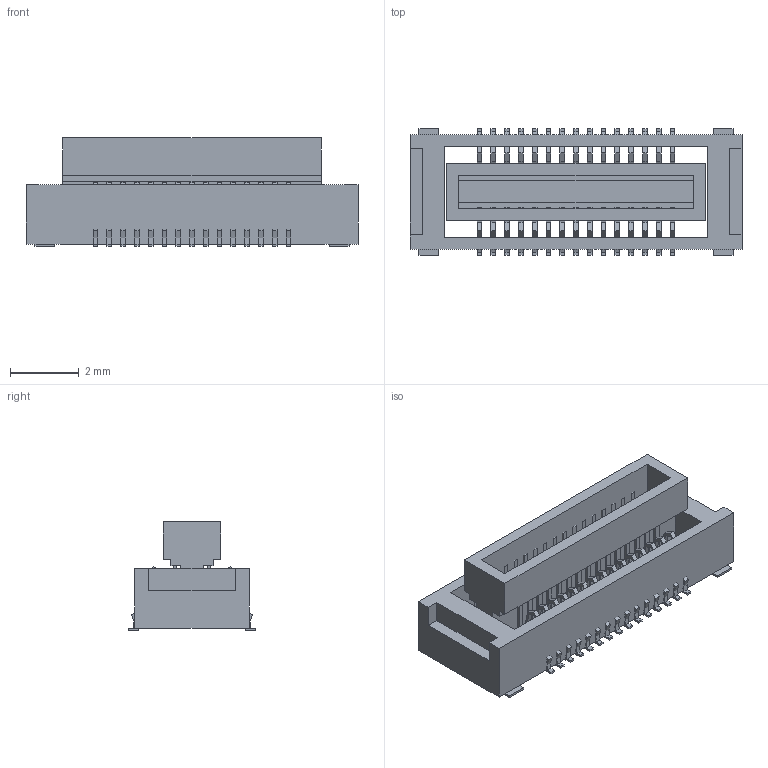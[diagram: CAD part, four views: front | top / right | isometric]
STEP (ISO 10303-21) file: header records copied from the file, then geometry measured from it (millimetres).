
FILE_DESCRIPTION(('Open CASCADE Model'),'2;1');
FILE_NAME('Open CASCADE Shape Model','2026-10-04T11:24:14',('Author'),( 'Open CASCADE'),'Open CASCADE STEP processor 7.9','Open CASCADE 7.9' ,'Unknown');
FILE_SCHEMA(('AUTOMOTIVE_DESIGN { 1 0 10303 214 1 1 1 1 }'));
Length unit declared in the file: millimetre
Products named in the file (37): DF40F_30_Drawing_Derived_Nominal; Nominal_fixed_LCP_cradle; Nominal_floating_LCP_housing; Nominal_contact_01; Nominal_contact_02; Nominal_contact_03; Nominal_contact_04; Nominal_contact_05; Nominal_contact_06; Nominal_contact_07; Nominal_contact_08; Nominal_contact_09; Nominal_contact_10; Nominal_contact_11; Nominal_contact_12; Nominal_contact_13; Nominal_contact_14; Nominal_contact_15; Nominal_contact_16; Nominal_contact_17; Nominal_contact_18; Nominal_contact_19; Nominal_contact_20; Nominal_contact_21; Nominal_contact_22; Nominal_contact_23; Nominal_contact_24; Nominal_contact_25; Nominal_contact_26; Nominal_contact_27; Nominal_contact_28; Nominal_contact_29; Nominal_contact_30; Nominal_retainer_-1_-1; Nominal_retainer_-1_1; Nominal_retainer_1_-1; Nominal_retainer_1_1
Assembly tree (36 placements, depth 2):
  DF40F_30_Drawing_Derived_Nominal
    Nominal_fixed_LCP_cradle
    Nominal_floating_LCP_housing
    Nominal_contact_01
    Nominal_contact_02
    Nominal_contact_03
    Nominal_contact_04
    Nominal_contact_05
    Nominal_contact_06
    Nominal_contact_07
    Nominal_contact_08
    Nominal_contact_09
    Nominal_contact_10
    Nominal_contact_11
    Nominal_contact_12
    Nominal_contact_13
    Nominal_contact_14
    Nominal_contact_15
    Nominal_contact_16
    Nominal_contact_17
    Nominal_contact_18
    Nominal_contact_19
    Nominal_contact_20
    Nominal_contact_21
    Nominal_contact_22
    Nominal_contact_23
    Nominal_contact_24
    Nominal_contact_25
    Nominal_contact_26
    Nominal_contact_27
    Nominal_contact_28
    Nominal_contact_29
    Nominal_contact_30
    Nominal_retainer_-1_-1
    Nominal_retainer_-1_1
    Nominal_retainer_1_-1
    Nominal_retainer_1_1
Bounding box: 9.63 x 3.68 x 3.15 mm (x, y, z)
Volume: 38.5 mm3; surface area: 285.8 mm2
Topology: 36 solids, 36 shells, 823 faces, 2190 edges, 1440 vertices
Faces by surface type: plane 823
Entity records: 51248 total; most frequent: CARTESIAN_POINT 8438, DIRECTION 7762, LINE 6162, VECTOR 6162, ORIENTED_EDGE 4140, PCURVE 4140, DEFINITIONAL_REPRESENTATION 4140, EDGE_CURVE 2070
